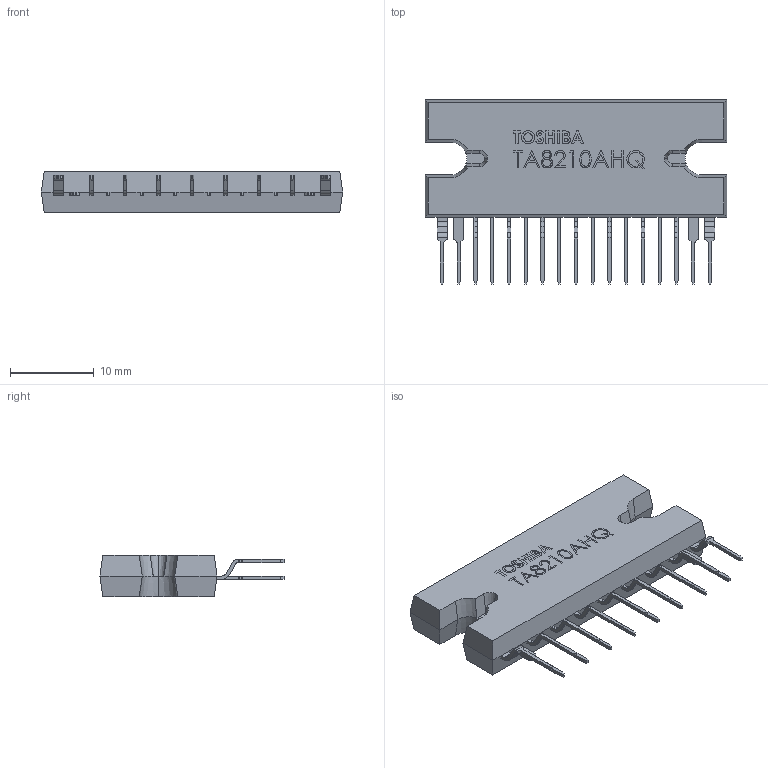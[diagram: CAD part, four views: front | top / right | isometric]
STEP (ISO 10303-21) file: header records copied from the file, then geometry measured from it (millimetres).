
FILE_DESCRIPTION (( 'STEP AP214' ), '1' );
FILE_NAME ('User Library-TA8210AHQ.STEP', '2020-05-12T04:55:04', ( '' ), ( '' ), 'SwSTEP 2.0', 'SolidWorks 2019', '' );
FILE_SCHEMA (( 'AUTOMOTIVE_DESIGN' ));
Length unit declared in the file: millimetre
Products named in the file (1): User Library-TA8210AHQ
Bounding box: 36 x 22 x 5 mm (x, y, z)
Volume: 2252.1 mm3; surface area: 1704.4 mm2
Topology: 1 solids, 1 shells, 473 faces, 1289 edges, 844 vertices
Faces by surface type: plane 331, bspline 74, cylinder 52, cone 16
Entity records: 19635 total; most frequent: CARTESIAN_POINT 7469, ORIENTED_EDGE 2578, DIRECTION 2061, EDGE_CURVE 1289, LINE 997, VECTOR 997, VERTEX_POINT 844, AXIS2_PLACEMENT_3D 532
